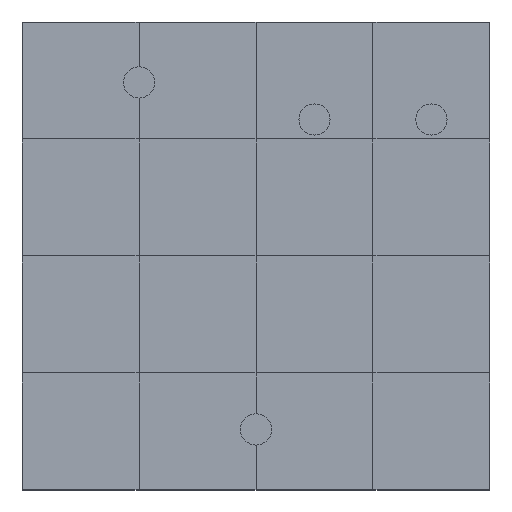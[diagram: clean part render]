
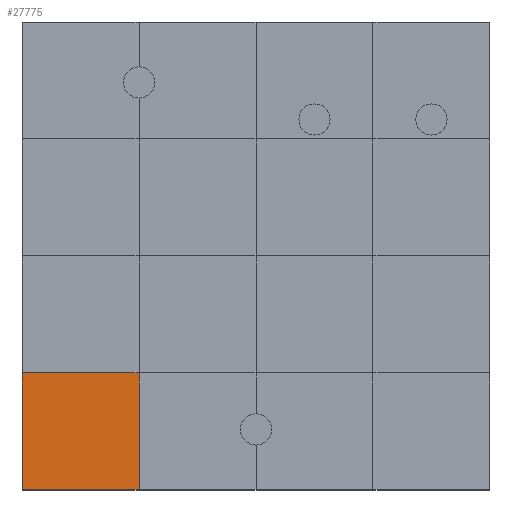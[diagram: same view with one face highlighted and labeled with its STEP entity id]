
A CAD part, top view. The second image highlights one B-rep face of the part: STEP entity #27775.
In plain terms, the highlighted planar face has unit normal (0, 0, 1).
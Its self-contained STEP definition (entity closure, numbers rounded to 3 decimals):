
#27586 = VERTEX_POINT('',#27587);
#27587 = CARTESIAN_POINT('',(0.,0.,1.5));
#27594 = PLANE('',#27595);
#27595 = AXIS2_PLACEMENT_3D('',#27596,#27597,#27598);
#27596 = CARTESIAN_POINT('',(0.,0.,0.));
#27597 = DIRECTION('',(1.,0.,-0.));
#27598 = DIRECTION('',(0.,0.,1.));
#27606 = PLANE('',#27607);
#27607 = AXIS2_PLACEMENT_3D('',#27608,#27609,#27610);
#27608 = CARTESIAN_POINT('',(0.,0.,0.));
#27609 = DIRECTION('',(-0.,1.,0.));
#27610 = DIRECTION('',(0.,0.,1.));
#27647 = VERTEX_POINT('',#27648);
#27648 = CARTESIAN_POINT('',(0.,3.,1.5));
#27674 = EDGE_CURVE('',#27586,#27647,#27675,.T.);
#27675 = SURFACE_CURVE('',#27676,(#27680,#27687),.PCURVE_S1.);
#27676 = LINE('',#27677,#27678);
#27677 = CARTESIAN_POINT('',(0.,0.,1.5));
#27678 = VECTOR('',#27679,1.);
#27679 = DIRECTION('',(-0.,1.,0.));
#27680 = PCURVE('',#27594,#27681);
#27681 = DEFINITIONAL_REPRESENTATION('',(#27682),#27686);
#27682 = LINE('',#27683,#27684);
#27683 = CARTESIAN_POINT('',(1.5,0.));
#27684 = VECTOR('',#27685,1.);
#27685 = DIRECTION('',(0.,-1.));
#27686 = ( GEOMETRIC_REPRESENTATION_CONTEXT(2) 
PARAMETRIC_REPRESENTATION_CONTEXT() REPRESENTATION_CONTEXT('2D SPACE',''
  ) );
#27687 = PCURVE('',#27688,#27693);
#27688 = PLANE('',#27689);
#27689 = AXIS2_PLACEMENT_3D('',#27690,#27691,#27692);
#27690 = CARTESIAN_POINT('',(0.,0.,1.5));
#27691 = DIRECTION('',(0.,0.,1.));
#27692 = DIRECTION('',(1.,0.,-0.));
#27693 = DEFINITIONAL_REPRESENTATION('',(#27694),#27698);
#27694 = LINE('',#27695,#27696);
#27695 = CARTESIAN_POINT('',(0.,0.));
#27696 = VECTOR('',#27697,1.);
#27697 = DIRECTION('',(0.,1.));
#27698 = ( GEOMETRIC_REPRESENTATION_CONTEXT(2) 
PARAMETRIC_REPRESENTATION_CONTEXT() REPRESENTATION_CONTEXT('2D SPACE',''
  ) );
#27727 = EDGE_CURVE('',#27586,#27728,#27730,.T.);
#27728 = VERTEX_POINT('',#27729);
#27729 = CARTESIAN_POINT('',(3.,0.,1.5));
#27730 = SURFACE_CURVE('',#27731,(#27735,#27742),.PCURVE_S1.);
#27731 = LINE('',#27732,#27733);
#27732 = CARTESIAN_POINT('',(0.,0.,1.5));
#27733 = VECTOR('',#27734,1.);
#27734 = DIRECTION('',(1.,0.,-0.));
#27735 = PCURVE('',#27606,#27736);
#27736 = DEFINITIONAL_REPRESENTATION('',(#27737),#27741);
#27737 = LINE('',#27738,#27739);
#27738 = CARTESIAN_POINT('',(1.5,0.));
#27739 = VECTOR('',#27740,1.);
#27740 = DIRECTION('',(0.,1.));
#27741 = ( GEOMETRIC_REPRESENTATION_CONTEXT(2) 
PARAMETRIC_REPRESENTATION_CONTEXT() REPRESENTATION_CONTEXT('2D SPACE',''
  ) );
#27742 = PCURVE('',#27688,#27743);
#27743 = DEFINITIONAL_REPRESENTATION('',(#27744),#27748);
#27744 = LINE('',#27745,#27746);
#27745 = CARTESIAN_POINT('',(0.,0.));
#27746 = VECTOR('',#27747,1.);
#27747 = DIRECTION('',(1.,0.));
#27748 = ( GEOMETRIC_REPRESENTATION_CONTEXT(2) 
PARAMETRIC_REPRESENTATION_CONTEXT() REPRESENTATION_CONTEXT('2D SPACE',''
  ) );
#27775 = ADVANCED_FACE('',(#27776),#27688,.T.);
#27776 = FACE_BOUND('',#27777,.T.);
#27777 = EDGE_LOOP('',(#27778,#27779,#27780,#27808));
#27778 = ORIENTED_EDGE('',*,*,#27674,.F.);
#27779 = ORIENTED_EDGE('',*,*,#27727,.T.);
#27780 = ORIENTED_EDGE('',*,*,#27781,.T.);
#27781 = EDGE_CURVE('',#27728,#27782,#27784,.T.);
#27782 = VERTEX_POINT('',#27783);
#27783 = CARTESIAN_POINT('',(3.,3.,1.5));
#27784 = SURFACE_CURVE('',#27785,(#27789,#27796),.PCURVE_S1.);
#27785 = LINE('',#27786,#27787);
#27786 = CARTESIAN_POINT('',(3.,0.,1.5));
#27787 = VECTOR('',#27788,1.);
#27788 = DIRECTION('',(-0.,1.,0.));
#27789 = PCURVE('',#27688,#27790);
#27790 = DEFINITIONAL_REPRESENTATION('',(#27791),#27795);
#27791 = LINE('',#27792,#27793);
#27792 = CARTESIAN_POINT('',(3.,0.));
#27793 = VECTOR('',#27794,1.);
#27794 = DIRECTION('',(0.,1.));
#27795 = ( GEOMETRIC_REPRESENTATION_CONTEXT(2) 
PARAMETRIC_REPRESENTATION_CONTEXT() REPRESENTATION_CONTEXT('2D SPACE',''
  ) );
#27796 = PCURVE('',#27797,#27802);
#27797 = PLANE('',#27798);
#27798 = AXIS2_PLACEMENT_3D('',#27799,#27800,#27801);
#27799 = CARTESIAN_POINT('',(3.,0.,1.5));
#27800 = DIRECTION('',(0.,0.,1.));
#27801 = DIRECTION('',(1.,0.,-0.));
#27802 = DEFINITIONAL_REPRESENTATION('',(#27803),#27807);
#27803 = LINE('',#27804,#27805);
#27804 = CARTESIAN_POINT('',(0.,0.));
#27805 = VECTOR('',#27806,1.);
#27806 = DIRECTION('',(0.,1.));
#27807 = ( GEOMETRIC_REPRESENTATION_CONTEXT(2) 
PARAMETRIC_REPRESENTATION_CONTEXT() REPRESENTATION_CONTEXT('2D SPACE',''
  ) );
#27808 = ORIENTED_EDGE('',*,*,#27809,.F.);
#27809 = EDGE_CURVE('',#27647,#27782,#27810,.T.);
#27810 = SURFACE_CURVE('',#27811,(#27815,#27822),.PCURVE_S1.);
#27811 = LINE('',#27812,#27813);
#27812 = CARTESIAN_POINT('',(0.,3.,1.5));
#27813 = VECTOR('',#27814,1.);
#27814 = DIRECTION('',(1.,0.,-0.));
#27815 = PCURVE('',#27688,#27816);
#27816 = DEFINITIONAL_REPRESENTATION('',(#27817),#27821);
#27817 = LINE('',#27818,#27819);
#27818 = CARTESIAN_POINT('',(0.,3.));
#27819 = VECTOR('',#27820,1.);
#27820 = DIRECTION('',(1.,0.));
#27821 = ( GEOMETRIC_REPRESENTATION_CONTEXT(2) 
PARAMETRIC_REPRESENTATION_CONTEXT() REPRESENTATION_CONTEXT('2D SPACE',''
  ) );
#27822 = PCURVE('',#27823,#27828);
#27823 = PLANE('',#27824);
#27824 = AXIS2_PLACEMENT_3D('',#27825,#27826,#27827);
#27825 = CARTESIAN_POINT('',(0.,3.,1.5));
#27826 = DIRECTION('',(0.,0.,1.));
#27827 = DIRECTION('',(1.,0.,-0.));
#27828 = DEFINITIONAL_REPRESENTATION('',(#27829),#27833);
#27829 = LINE('',#27830,#27831);
#27830 = CARTESIAN_POINT('',(0.,0.));
#27831 = VECTOR('',#27832,1.);
#27832 = DIRECTION('',(1.,0.));
#27833 = ( GEOMETRIC_REPRESENTATION_CONTEXT(2) 
PARAMETRIC_REPRESENTATION_CONTEXT() REPRESENTATION_CONTEXT('2D SPACE',''
  ) );
